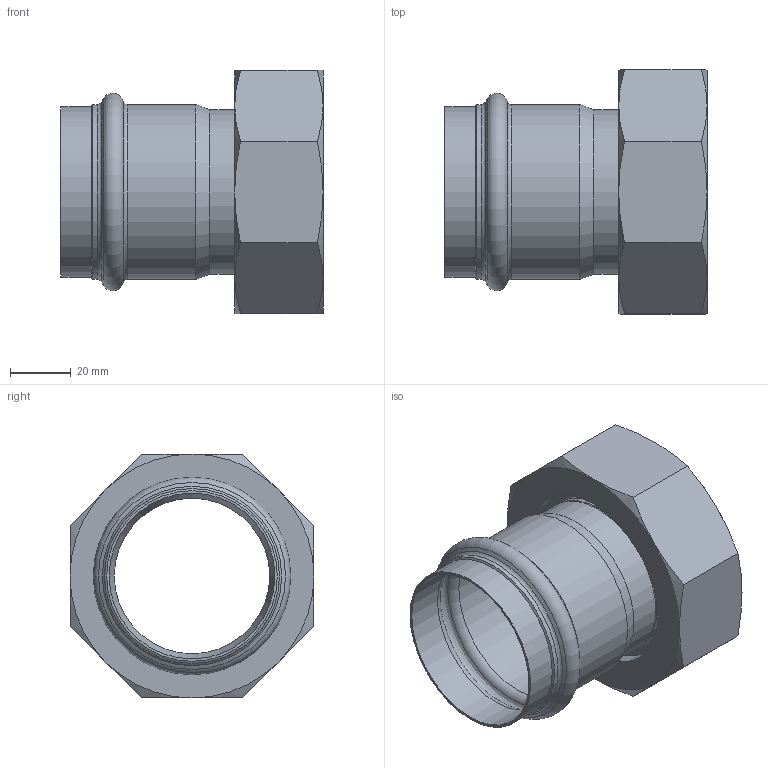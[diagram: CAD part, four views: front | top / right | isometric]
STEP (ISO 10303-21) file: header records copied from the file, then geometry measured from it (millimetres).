
FILE_DESCRIPTION((''),'2;1');
FILE_NAME('G:\Nirosan-Schmiedefeld\Technics\CAD\001 Serie 9.000\054\69359M54212H(0).stp','2018-10-16T11:06:58',('herberg'),(''),'Autodesk Inventor 2009','Autodesk Inventor 2009','');
FILE_SCHEMA(('AUTOMOTIVE_DESIGN { 1 0 10303 214 1 1 1 1 }'));
Products named in the file (5): 69359M54212H(0); 69HM54p(1); 69MA54212p(0); R54212(0); FD_7255_EPDM(0)
Assembly tree (4 placements, depth 2):
  69359M54212H(0)
    69HM54p(1)
    69MA54212p(0)
    R54212(0)
    FD_7255_EPDM(0)
Bounding box: 86 x 80 x 80 mm (x, y, z)
Volume: 67760 mm3; surface area: 51676.2 mm2
Topology: 4 solids, 4 shells, 62 faces, 121 edges, 69 vertices
Faces by surface type: cone 23, plane 17, cylinder 12, bspline 7, torus 3
Full cylindrical faces by diameter (mm): 51 x2, 54 x2, 54.35 x2, 55 x1, 55.95 x1, 57.35 x2, 71 x1, 72 x1
Entity records: 1780 total; most frequent: CARTESIAN_POINT 546, DIRECTION 242, ORIENTED_EDGE 186, AXIS2_PLACEMENT_3D 117, EDGE_LOOP 100, EDGE_CURVE 93, VERTEX_POINT 69, FACE_OUTER_BOUND 62
